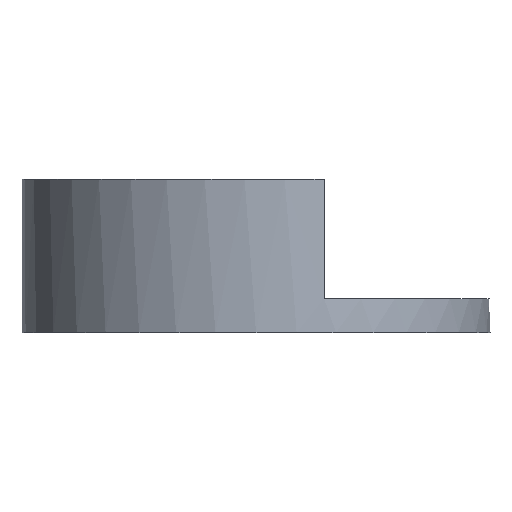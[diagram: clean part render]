
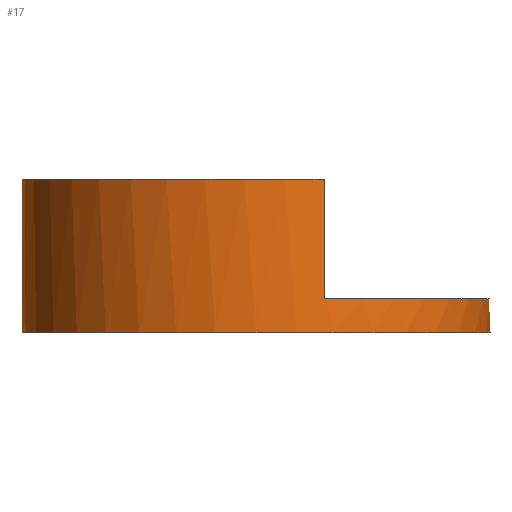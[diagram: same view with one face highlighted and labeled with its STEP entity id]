
A CAD part, left-side view. The second image highlights one B-rep face of the part: STEP entity #17.
In plain terms, the highlighted cylindrical face has radius 5.5 mm (diameter 11 mm), a full revolution.
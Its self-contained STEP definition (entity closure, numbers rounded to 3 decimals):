
#17 = ADVANCED_FACE('',(#18),#79,.T.);
#18 = FACE_BOUND('',#19,.F.);
#19 = EDGE_LOOP('',(#20,#29,#37,#46,#54,#63,#71,#78));
#20 = ORIENTED_EDGE('',*,*,#21,.F.);
#21 = EDGE_CURVE('',#22,#22,#24,.T.);
#22 = VERTEX_POINT('',#23);
#23 = CARTESIAN_POINT('',(20.5,24.,21.4));
#24 = CIRCLE('',#25,5.5);
#25 = AXIS2_PLACEMENT_3D('',#26,#27,#28);
#26 = CARTESIAN_POINT('',(15.,24.,21.4));
#27 = DIRECTION('',(0.,0.,1.));
#28 = DIRECTION('',(1.,0.,0.));
#29 = ORIENTED_EDGE('',*,*,#30,.T.);
#30 = EDGE_CURVE('',#22,#31,#33,.T.);
#31 = VERTEX_POINT('',#32);
#32 = CARTESIAN_POINT('',(20.5,24.,25.));
#33 = LINE('',#34,#35);
#34 = CARTESIAN_POINT('',(20.5,24.,21.4));
#35 = VECTOR('',#36,1.);
#36 = DIRECTION('',(0.,0.,1.));
#37 = ORIENTED_EDGE('',*,*,#38,.T.);
#38 = EDGE_CURVE('',#31,#39,#41,.T.);
#39 = VERTEX_POINT('',#40);
#40 = CARTESIAN_POINT('',(9.738,22.4,25.));
#41 = CIRCLE('',#42,5.5);
#42 = AXIS2_PLACEMENT_3D('',#43,#44,#45);
#43 = CARTESIAN_POINT('',(15.,24.,25.));
#44 = DIRECTION('',(0.,0.,1.));
#45 = DIRECTION('',(1.,0.,0.));
#46 = ORIENTED_EDGE('',*,*,#47,.T.);
#47 = EDGE_CURVE('',#39,#48,#50,.T.);
#48 = VERTEX_POINT('',#49);
#49 = CARTESIAN_POINT('',(9.738,22.4,22.2));
#50 = LINE('',#51,#52);
#51 = CARTESIAN_POINT('',(9.738,22.4,21.4));
#52 = VECTOR('',#53,1.);
#53 = DIRECTION('',(-0.,-0.,-1.));
#54 = ORIENTED_EDGE('',*,*,#55,.F.);
#55 = EDGE_CURVE('',#56,#48,#58,.T.);
#56 = VERTEX_POINT('',#57);
#57 = CARTESIAN_POINT('',(20.262,22.4,22.2));
#58 = CIRCLE('',#59,5.5);
#59 = AXIS2_PLACEMENT_3D('',#60,#61,#62);
#60 = CARTESIAN_POINT('',(15.,24.,22.2));
#61 = DIRECTION('',(0.,0.,-1.));
#62 = DIRECTION('',(1.,0.,0.));
#63 = ORIENTED_EDGE('',*,*,#64,.F.);
#64 = EDGE_CURVE('',#65,#56,#67,.T.);
#65 = VERTEX_POINT('',#66);
#66 = CARTESIAN_POINT('',(20.262,22.4,25.));
#67 = LINE('',#68,#69);
#68 = CARTESIAN_POINT('',(20.262,22.4,21.4));
#69 = VECTOR('',#70,1.);
#70 = DIRECTION('',(-0.,-0.,-1.));
#71 = ORIENTED_EDGE('',*,*,#72,.T.);
#72 = EDGE_CURVE('',#65,#31,#73,.T.);
#73 = CIRCLE('',#74,5.5);
#74 = AXIS2_PLACEMENT_3D('',#75,#76,#77);
#75 = CARTESIAN_POINT('',(15.,24.,25.));
#76 = DIRECTION('',(0.,0.,1.));
#77 = DIRECTION('',(1.,0.,0.));
#78 = ORIENTED_EDGE('',*,*,#30,.F.);
#79 = CYLINDRICAL_SURFACE('',#80,5.5);
#80 = AXIS2_PLACEMENT_3D('',#81,#82,#83);
#81 = CARTESIAN_POINT('',(15.,24.,21.4));
#82 = DIRECTION('',(-0.,-0.,-1.));
#83 = DIRECTION('',(1.,0.,0.));
